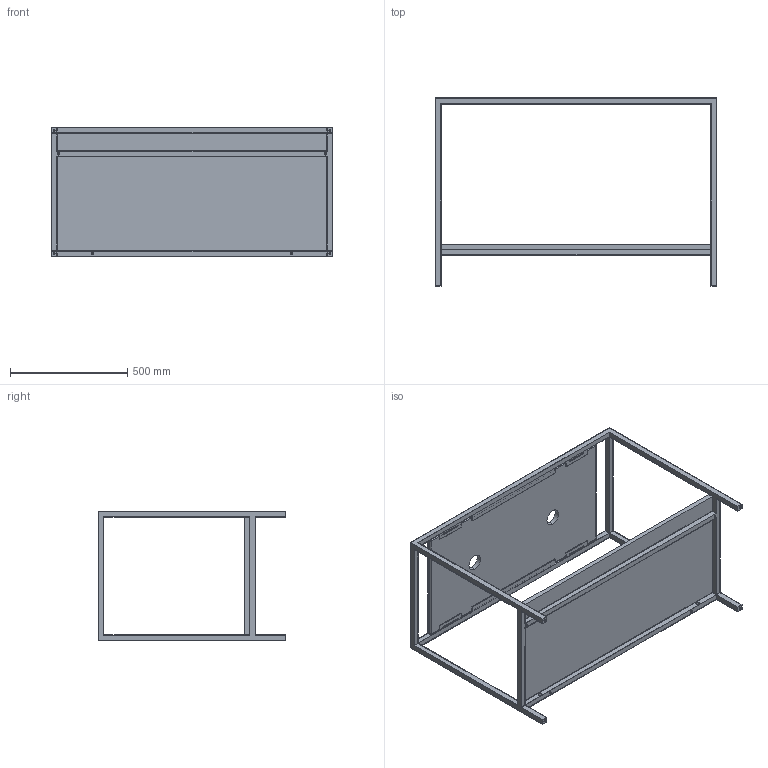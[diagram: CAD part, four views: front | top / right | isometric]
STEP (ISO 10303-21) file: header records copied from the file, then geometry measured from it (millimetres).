
FILE_DESCRIPTION (( 'STEP AP203' ), '1' );
FILE_NAME ('STP 120 03.STEP', '2019-02-04T13:53:04', ( '' ), ( '' ), 'SwSTEP 2.0', 'SolidWorks 2019', '' );
FILE_SCHEMA (( 'CONFIG_CONTROL_DESIGN' ));
Length unit declared in the file: millimetre
Products named in the file (5): PIANO MISURA 1000X495 2f; Ass STAND 120 PIANO 100 1f; struttura STAND 120; STP 120 03; piano120
Assembly tree (4 placements, depth 3):
  STP 120 03
    Ass STAND 120 PIANO 100 1f
      struttura STAND 120
    PIANO MISURA 1000X495 2f
    piano120
Bounding box: 1200 x 800 x 550 mm (x, y, z)
Volume: 23272184.5 mm3; surface area: 4213522.6 mm2
Topology: 3 solids, 3 shells, 188 faces, 512 edges, 312 vertices
Faces by surface type: plane 124, cylinder 56, sphere 8
Entity records: 6415 total; most frequent: CARTESIAN_POINT 1012, ORIENTED_EDGE 1008, DIRECTION 1008, EDGE_CURVE 504, VECTOR 392, LINE 392, VERTEX_POINT 312, AXIS2_PLACEMENT_3D 308
